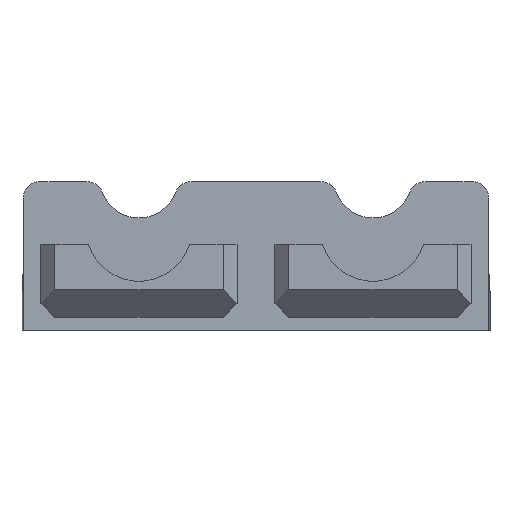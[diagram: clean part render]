
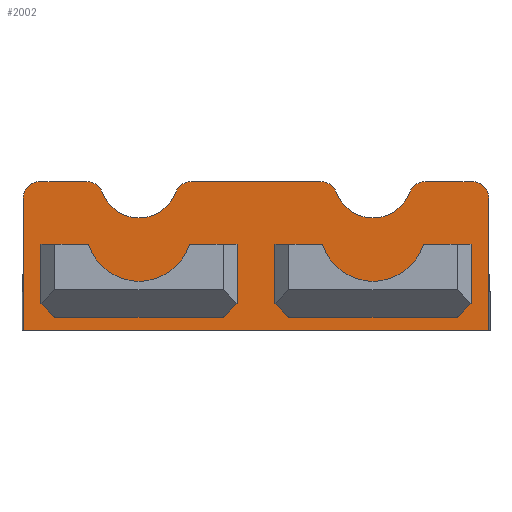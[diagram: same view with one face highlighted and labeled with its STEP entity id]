
A CAD part, left-side view. The second image highlights one B-rep face of the part: STEP entity #2002.
In plain terms, the highlighted planar face has unit normal (-1, 0, 0).
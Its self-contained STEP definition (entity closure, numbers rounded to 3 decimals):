
#39=FACE_BOUND('',#341,.T.);
#40=FACE_BOUND('',#342,.T.);
#89=PLANE('',#2202);
#206=FACE_OUTER_BOUND('',#340,.T.);
#340=EDGE_LOOP('',(#1681,#1682,#1683,#1684,#1685,#1686,#1687,#1688,#1689,
#1690,#1691,#1692,#1693,#1694));
#341=EDGE_LOOP('',(#1695,#1696,#1697,#1698,#1699,#1700));
#342=EDGE_LOOP('',(#1701,#1702,#1703,#1704,#1705,#1706));
#398=LINE('',#2975,#602);
#505=LINE('',#3256,#709);
#508=LINE('',#3262,#712);
#509=LINE('',#3266,#713);
#510=LINE('',#3274,#714);
#511=LINE('',#3280,#715);
#512=LINE('',#3283,#716);
#513=LINE('',#3285,#717);
#514=LINE('',#3289,#718);
#515=LINE('',#3291,#719);
#516=LINE('',#3292,#720);
#517=LINE('',#3295,#721);
#518=LINE('',#3297,#722);
#519=LINE('',#3299,#723);
#520=LINE('',#3301,#724);
#521=LINE('',#3304,#725);
#602=VECTOR('',#2368,10.);
#709=VECTOR('',#2683,10.);
#712=VECTOR('',#2688,10.);
#713=VECTOR('',#2691,10.);
#714=VECTOR('',#2698,10.);
#715=VECTOR('',#2705,10.);
#716=VECTOR('',#2706,10.);
#717=VECTOR('',#2707,10.);
#718=VECTOR('',#2710,10.);
#719=VECTOR('',#2711,10.);
#720=VECTOR('',#2712,10.);
#721=VECTOR('',#2713,10.);
#722=VECTOR('',#2714,10.);
#723=VECTOR('',#2715,10.);
#724=VECTOR('',#2716,10.);
#725=VECTOR('',#2719,10.);
#845=CIRCLE('',#2199,3.);
#847=CIRCLE('',#2203,3.);
#848=CIRCLE('',#2204,3.);
#849=CIRCLE('',#2205,7.);
#850=CIRCLE('',#2206,3.);
#851=CIRCLE('',#2207,3.);
#852=CIRCLE('',#2208,7.);
#853=CIRCLE('',#2209,3.);
#854=CIRCLE('',#2210,9.5);
#855=CIRCLE('',#2211,9.5);
#902=VERTEX_POINT('',#2972);
#903=VERTEX_POINT('',#2974);
#969=VERTEX_POINT('',#3246);
#970=VERTEX_POINT('',#3247);
#973=VERTEX_POINT('',#3255);
#975=VERTEX_POINT('',#3261);
#976=VERTEX_POINT('',#3263);
#977=VERTEX_POINT('',#3265);
#978=VERTEX_POINT('',#3267);
#979=VERTEX_POINT('',#3269);
#980=VERTEX_POINT('',#3271);
#981=VERTEX_POINT('',#3273);
#982=VERTEX_POINT('',#3275);
#983=VERTEX_POINT('',#3277);
#984=VERTEX_POINT('',#3281);
#985=VERTEX_POINT('',#3282);
#986=VERTEX_POINT('',#3284);
#987=VERTEX_POINT('',#3286);
#988=VERTEX_POINT('',#3288);
#989=VERTEX_POINT('',#3290);
#990=VERTEX_POINT('',#3293);
#991=VERTEX_POINT('',#3294);
#992=VERTEX_POINT('',#3296);
#993=VERTEX_POINT('',#3298);
#994=VERTEX_POINT('',#3300);
#995=VERTEX_POINT('',#3302);
#1078=EDGE_CURVE('',#902,#903,#398,.T.);
#1215=EDGE_CURVE('',#969,#970,#845,.T.);
#1219=EDGE_CURVE('',#973,#970,#505,.T.);
#1222=EDGE_CURVE('',#902,#975,#508,.T.);
#1223=EDGE_CURVE('',#976,#975,#847,.T.);
#1224=EDGE_CURVE('',#976,#977,#509,.T.);
#1225=EDGE_CURVE('',#978,#977,#848,.T.);
#1226=EDGE_CURVE('',#978,#979,#849,.T.);
#1227=EDGE_CURVE('',#980,#979,#850,.T.);
#1228=EDGE_CURVE('',#980,#981,#510,.T.);
#1229=EDGE_CURVE('',#982,#981,#851,.T.);
#1230=EDGE_CURVE('',#982,#983,#852,.T.);
#1231=EDGE_CURVE('',#973,#983,#853,.T.);
#1232=EDGE_CURVE('',#969,#903,#511,.T.);
#1233=EDGE_CURVE('',#984,#985,#512,.T.);
#1234=EDGE_CURVE('',#985,#986,#513,.T.);
#1235=EDGE_CURVE('',#986,#987,#854,.T.);
#1236=EDGE_CURVE('',#987,#988,#514,.T.);
#1237=EDGE_CURVE('',#988,#989,#515,.T.);
#1238=EDGE_CURVE('',#989,#984,#516,.T.);
#1239=EDGE_CURVE('',#990,#991,#517,.T.);
#1240=EDGE_CURVE('',#991,#992,#518,.T.);
#1241=EDGE_CURVE('',#992,#993,#519,.T.);
#1242=EDGE_CURVE('',#993,#994,#520,.T.);
#1243=EDGE_CURVE('',#994,#995,#855,.T.);
#1244=EDGE_CURVE('',#995,#990,#521,.T.);
#1681=ORIENTED_EDGE('',*,*,#1222,.T.);
#1682=ORIENTED_EDGE('',*,*,#1223,.F.);
#1683=ORIENTED_EDGE('',*,*,#1224,.T.);
#1684=ORIENTED_EDGE('',*,*,#1225,.F.);
#1685=ORIENTED_EDGE('',*,*,#1226,.T.);
#1686=ORIENTED_EDGE('',*,*,#1227,.F.);
#1687=ORIENTED_EDGE('',*,*,#1228,.T.);
#1688=ORIENTED_EDGE('',*,*,#1229,.F.);
#1689=ORIENTED_EDGE('',*,*,#1230,.T.);
#1690=ORIENTED_EDGE('',*,*,#1231,.F.);
#1691=ORIENTED_EDGE('',*,*,#1219,.T.);
#1692=ORIENTED_EDGE('',*,*,#1215,.F.);
#1693=ORIENTED_EDGE('',*,*,#1232,.T.);
#1694=ORIENTED_EDGE('',*,*,#1078,.F.);
#1695=ORIENTED_EDGE('',*,*,#1233,.T.);
#1696=ORIENTED_EDGE('',*,*,#1234,.T.);
#1697=ORIENTED_EDGE('',*,*,#1235,.T.);
#1698=ORIENTED_EDGE('',*,*,#1236,.T.);
#1699=ORIENTED_EDGE('',*,*,#1237,.T.);
#1700=ORIENTED_EDGE('',*,*,#1238,.T.);
#1701=ORIENTED_EDGE('',*,*,#1239,.T.);
#1702=ORIENTED_EDGE('',*,*,#1240,.T.);
#1703=ORIENTED_EDGE('',*,*,#1241,.T.);
#1704=ORIENTED_EDGE('',*,*,#1242,.T.);
#1705=ORIENTED_EDGE('',*,*,#1243,.T.);
#1706=ORIENTED_EDGE('',*,*,#1244,.T.);
#2002=ADVANCED_FACE('',(#206,#39,#40),#89,.F.);
#2199=AXIS2_PLACEMENT_3D('',#3248,#2675,#2676);
#2202=AXIS2_PLACEMENT_3D('',#3260,#2686,#2687);
#2203=AXIS2_PLACEMENT_3D('',#3264,#2689,#2690);
#2204=AXIS2_PLACEMENT_3D('',#3268,#2692,#2693);
#2205=AXIS2_PLACEMENT_3D('',#3270,#2694,#2695);
#2206=AXIS2_PLACEMENT_3D('',#3272,#2696,#2697);
#2207=AXIS2_PLACEMENT_3D('',#3276,#2699,#2700);
#2208=AXIS2_PLACEMENT_3D('',#3278,#2701,#2702);
#2209=AXIS2_PLACEMENT_3D('',#3279,#2703,#2704);
#2210=AXIS2_PLACEMENT_3D('',#3287,#2708,#2709);
#2211=AXIS2_PLACEMENT_3D('',#3303,#2717,#2718);
#2368=DIRECTION('',(0.,1.,0.));
#2675=DIRECTION('center_axis',(1.,0.,0.));
#2676=DIRECTION('ref_axis',(0.,0.707,0.707));
#2683=DIRECTION('',(0.,1.,0.));
#2686=DIRECTION('center_axis',(1.,0.,0.));
#2687=DIRECTION('ref_axis',(0.,1.,0.));
#2688=DIRECTION('',(0.,0.,1.));
#2689=DIRECTION('center_axis',(1.,0.,0.));
#2690=DIRECTION('ref_axis',(0.,-0.707,0.707));
#2691=DIRECTION('',(0.,1.,0.));
#2692=DIRECTION('center_axis',(1.,0.,0.));
#2693=DIRECTION('ref_axis',(0.,0.572,0.82));
#2694=DIRECTION('center_axis',(1.,0.,0.));
#2695=DIRECTION('ref_axis',(0.,1.,0.));
#2696=DIRECTION('center_axis',(1.,0.,0.));
#2697=DIRECTION('ref_axis',(0.,-0.572,0.82));
#2698=DIRECTION('',(0.,1.,0.));
#2699=DIRECTION('center_axis',(1.,0.,0.));
#2700=DIRECTION('ref_axis',(0.,0.572,0.82));
#2701=DIRECTION('center_axis',(1.,0.,0.));
#2702=DIRECTION('ref_axis',(0.,1.,0.));
#2703=DIRECTION('center_axis',(1.,0.,0.));
#2704=DIRECTION('ref_axis',(0.,-0.572,0.82));
#2705=DIRECTION('',(0.,0.,-1.));
#2706=DIRECTION('',(0.,0.,1.));
#2707=DIRECTION('',(0.,-1.,0.));
#2708=DIRECTION('center_axis',(-1.,0.,0.));
#2709=DIRECTION('ref_axis',(0.,1.,0.));
#2710=DIRECTION('',(0.,-1.,0.));
#2711=DIRECTION('',(0.,0.,-1.));
#2712=DIRECTION('',(0.,1.,0.));
#2713=DIRECTION('',(0.,0.,-1.));
#2714=DIRECTION('',(0.,1.,0.));
#2715=DIRECTION('',(0.,0.,1.));
#2716=DIRECTION('',(0.,-1.,0.));
#2717=DIRECTION('center_axis',(-1.,0.,0.));
#2718=DIRECTION('ref_axis',(0.,1.,0.));
#2719=DIRECTION('',(0.,-1.,0.));
#2972=CARTESIAN_POINT('',(96.15,-20.8,-174.478));
#2974=CARTESIAN_POINT('',(96.15,62.8,-174.478));
#2975=CARTESIAN_POINT('',(96.15,-20.8,-174.478));
#3246=CARTESIAN_POINT('',(96.15,62.8,-150.76));
#3247=CARTESIAN_POINT('',(96.15,59.8,-147.76));
#3248=CARTESIAN_POINT('Origin',(96.15,59.8,-150.76));
#3255=CARTESIAN_POINT('',(96.15,51.382,-147.76));
#3256=CARTESIAN_POINT('',(96.15,21.2,-147.76));
#3260=CARTESIAN_POINT('Origin',(96.15,0.,-159.942));
#3261=CARTESIAN_POINT('',(96.15,-20.8,-150.76));
#3262=CARTESIAN_POINT('',(96.15,-20.8,-153.851));
#3263=CARTESIAN_POINT('',(96.15,-17.8,-147.76));
#3264=CARTESIAN_POINT('Origin',(96.15,-17.8,-150.76));
#3265=CARTESIAN_POINT('',(96.15,-9.382,-147.76));
#3266=CARTESIAN_POINT('',(96.15,-20.8,-147.76));
#3267=CARTESIAN_POINT('',(96.15,-6.567,-149.722));
#3268=CARTESIAN_POINT('Origin',(96.15,-9.382,-150.76));
#3269=CARTESIAN_POINT('',(96.15,6.567,-149.722));
#3270=CARTESIAN_POINT('Origin',(96.15,0.,-147.298));
#3271=CARTESIAN_POINT('',(96.15,9.382,-147.76));
#3272=CARTESIAN_POINT('Origin',(96.15,9.382,-150.76));
#3273=CARTESIAN_POINT('',(96.15,32.618,-147.76));
#3274=CARTESIAN_POINT('',(96.15,21.2,-147.76));
#3275=CARTESIAN_POINT('',(96.15,35.433,-149.722));
#3276=CARTESIAN_POINT('Origin',(96.15,32.618,-150.76));
#3277=CARTESIAN_POINT('',(96.15,48.567,-149.722));
#3278=CARTESIAN_POINT('Origin',(96.15,42.,-147.298));
#3279=CARTESIAN_POINT('Origin',(96.15,51.382,-150.76));
#3280=CARTESIAN_POINT('',(96.15,62.8,-166.033));
#3281=CARTESIAN_POINT('',(96.15,15.1,-172.15));
#3282=CARTESIAN_POINT('',(96.15,15.1,-159.));
#3283=CARTESIAN_POINT('',(96.15,15.1,-166.046));
#3284=CARTESIAN_POINT('',(96.15,9.062,-159.));
#3285=CARTESIAN_POINT('',(96.15,0.,-159.));
#3286=CARTESIAN_POINT('',(96.15,-9.062,-159.));
#3287=CARTESIAN_POINT('Origin',(96.15,0.,-156.15));
#3288=CARTESIAN_POINT('',(96.15,-15.1,-159.));
#3289=CARTESIAN_POINT('',(96.15,0.,-159.));
#3290=CARTESIAN_POINT('',(96.15,-15.1,-172.15));
#3291=CARTESIAN_POINT('',(96.15,-15.1,-160.));
#3292=CARTESIAN_POINT('',(96.15,0.,-172.15));
#3293=CARTESIAN_POINT('',(96.15,26.9,-159.));
#3294=CARTESIAN_POINT('',(96.15,26.9,-172.15));
#3295=CARTESIAN_POINT('',(96.15,26.9,-160.));
#3296=CARTESIAN_POINT('',(96.15,57.1,-172.15));
#3297=CARTESIAN_POINT('',(96.15,42.,-172.15));
#3298=CARTESIAN_POINT('',(96.15,57.1,-159.));
#3299=CARTESIAN_POINT('',(96.15,57.1,-166.046));
#3300=CARTESIAN_POINT('',(96.15,51.062,-159.));
#3301=CARTESIAN_POINT('',(96.15,42.,-159.));
#3302=CARTESIAN_POINT('',(96.15,32.938,-159.));
#3303=CARTESIAN_POINT('Origin',(96.15,42.,-156.15));
#3304=CARTESIAN_POINT('',(96.15,42.,-159.));
